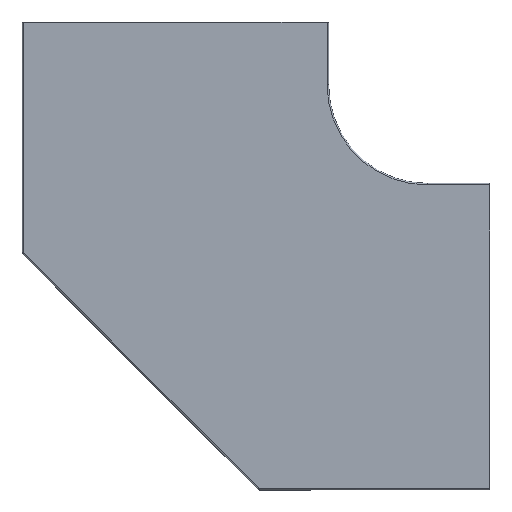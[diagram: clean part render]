
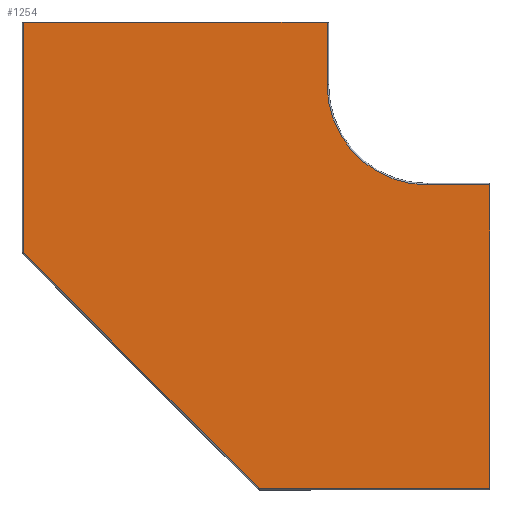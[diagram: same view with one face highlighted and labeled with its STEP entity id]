
A CAD part, front view. The second image highlights one B-rep face of the part: STEP entity #1254.
In plain terms, the highlighted planar face has unit normal (0, -1, 0).
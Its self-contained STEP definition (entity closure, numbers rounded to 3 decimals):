
#71 = DIRECTION ( 'NONE',  ( -0.707, 0., 0.707 ) ) ;
#116 = VERTEX_POINT ( 'NONE', #2202 ) ;
#164 = CARTESIAN_POINT ( 'NONE',  ( 0., 0., 0. ) ) ;
#321 = EDGE_CURVE ( 'NONE', #780, #116, #523, .T. ) ;
#340 = CARTESIAN_POINT ( 'NONE',  ( 399., 0., -62. ) ) ;
#431 = CARTESIAN_POINT ( 'NONE',  ( 461., 0., -161. ) ) ;
#438 = EDGE_CURVE ( 'NONE', #1124, #780, #2164, .T. ) ;
#475 = VECTOR ( 'NONE', #1276, 1000. ) ;
#495 = VERTEX_POINT ( 'NONE', #3078 ) ;
#501 = VERTEX_POINT ( 'NONE', #431 ) ;
#523 = LINE ( 'NONE', #2887, #841 ) ;
#588 = DIRECTION ( 'NONE',  ( -1., 0., 0. ) ) ;
#780 = VERTEX_POINT ( 'NONE', #2424 ) ;
#832 = DIRECTION ( 'NONE',  ( 0., 0., -1. ) ) ;
#841 = VECTOR ( 'NONE', #71, 1000. ) ;
#846 = CARTESIAN_POINT ( 'NONE',  ( 0., 0., 0. ) ) ;
#928 = EDGE_CURVE ( 'NONE', #3135, #1626, #2258, .T. ) ;
#978 = CARTESIAN_POINT ( 'NONE',  ( 300., 0., 0. ) ) ;
#1088 = DIRECTION ( 'NONE',  ( 0., -1., 0. ) ) ;
#1124 = VERTEX_POINT ( 'NONE', #2703 ) ;
#1136 = CARTESIAN_POINT ( 'NONE',  ( 399., 0., -161. ) ) ;
#1215 = DIRECTION ( 'NONE',  ( 0., 0., -1. ) ) ;
#1254 = ADVANCED_FACE ( 'NONE', ( #3809 ), #3753, .T. ) ;
#1260 = EDGE_LOOP ( 'NONE', ( #1296, #2343, #1478, #1503, #2284, #1908, #1681, #2059 ) ) ;
#1276 = DIRECTION ( 'NONE',  ( 0., 0., -1. ) ) ;
#1296 = ORIENTED_EDGE ( 'NONE', *, *, #1941, .F. ) ;
#1391 = VECTOR ( 'NONE', #3591, 1000. ) ;
#1478 = ORIENTED_EDGE ( 'NONE', *, *, #438, .F. ) ;
#1503 = ORIENTED_EDGE ( 'NONE', *, *, #3408, .F. ) ;
#1626 = VERTEX_POINT ( 'NONE', #1972 ) ;
#1681 = ORIENTED_EDGE ( 'NONE', *, *, #2259, .F. ) ;
#1786 = CIRCLE ( 'NONE', #2092, 99. ) ;
#1798 = CARTESIAN_POINT ( 'NONE',  ( 233., 0., -461. ) ) ;
#1814 = CARTESIAN_POINT ( 'NONE',  ( 300., 0., -62. ) ) ;
#1908 = ORIENTED_EDGE ( 'NONE', *, *, #3350, .F. ) ;
#1941 = EDGE_CURVE ( 'NONE', #116, #3135, #2521, .T. ) ;
#1972 = CARTESIAN_POINT ( 'NONE',  ( 300., 0., 0. ) ) ;
#1980 = DIRECTION ( 'NONE',  ( 1., 0., 0. ) ) ;
#2059 = ORIENTED_EDGE ( 'NONE', *, *, #928, .F. ) ;
#2081 = AXIS2_PLACEMENT_3D ( 'NONE', #2311, #1088, #832 ) ;
#2092 = AXIS2_PLACEMENT_3D ( 'NONE', #340, #2417, #1215 ) ;
#2130 = CARTESIAN_POINT ( 'NONE',  ( 461., 0., -161. ) ) ;
#2156 = LINE ( 'NONE', #978, #1391 ) ;
#2164 = LINE ( 'NONE', #1798, #2404 ) ;
#2202 = CARTESIAN_POINT ( 'NONE',  ( 0., 0., -228. ) ) ;
#2211 = VECTOR ( 'NONE', #3802, 1000. ) ;
#2258 = LINE ( 'NONE', #164, #3106 ) ;
#2259 = EDGE_CURVE ( 'NONE', #1626, #2709, #2156, .T. ) ;
#2261 = DIRECTION ( 'NONE',  ( 0., 0., 1. ) ) ;
#2284 = ORIENTED_EDGE ( 'NONE', *, *, #2925, .F. ) ;
#2311 = CARTESIAN_POINT ( 'NONE',  ( 399., 0., -62. ) ) ;
#2343 = ORIENTED_EDGE ( 'NONE', *, *, #321, .F. ) ;
#2404 = VECTOR ( 'NONE', #588, 1000. ) ;
#2417 = DIRECTION ( 'NONE',  ( 0., -1., 0. ) ) ;
#2424 = CARTESIAN_POINT ( 'NONE',  ( 233., 0., -461. ) ) ;
#2458 = LINE ( 'NONE', #2130, #475 ) ;
#2521 = LINE ( 'NONE', #3472, #2867 ) ;
#2703 = CARTESIAN_POINT ( 'NONE',  ( 461., 0., -461. ) ) ;
#2709 = VERTEX_POINT ( 'NONE', #1814 ) ;
#2867 = VECTOR ( 'NONE', #2261, 1000. ) ;
#2887 = CARTESIAN_POINT ( 'NONE',  ( 0., 0., -228. ) ) ;
#2925 = EDGE_CURVE ( 'NONE', #495, #501, #2943, .T. ) ;
#2943 = LINE ( 'NONE', #1136, #2211 ) ;
#3078 = CARTESIAN_POINT ( 'NONE',  ( 399., 0., -161. ) ) ;
#3106 = VECTOR ( 'NONE', #1980, 1000. ) ;
#3135 = VERTEX_POINT ( 'NONE', #846 ) ;
#3350 = EDGE_CURVE ( 'NONE', #2709, #495, #1786, .T. ) ;
#3408 = EDGE_CURVE ( 'NONE', #501, #1124, #2458, .T. ) ;
#3472 = CARTESIAN_POINT ( 'NONE',  ( 0., 0., 0. ) ) ;
#3591 = DIRECTION ( 'NONE',  ( 0., 0., -1. ) ) ;
#3753 = PLANE ( 'NONE',  #2081 ) ;
#3802 = DIRECTION ( 'NONE',  ( 1., 0., 0. ) ) ;
#3809 = FACE_OUTER_BOUND ( 'NONE', #1260, .T. ) ;
